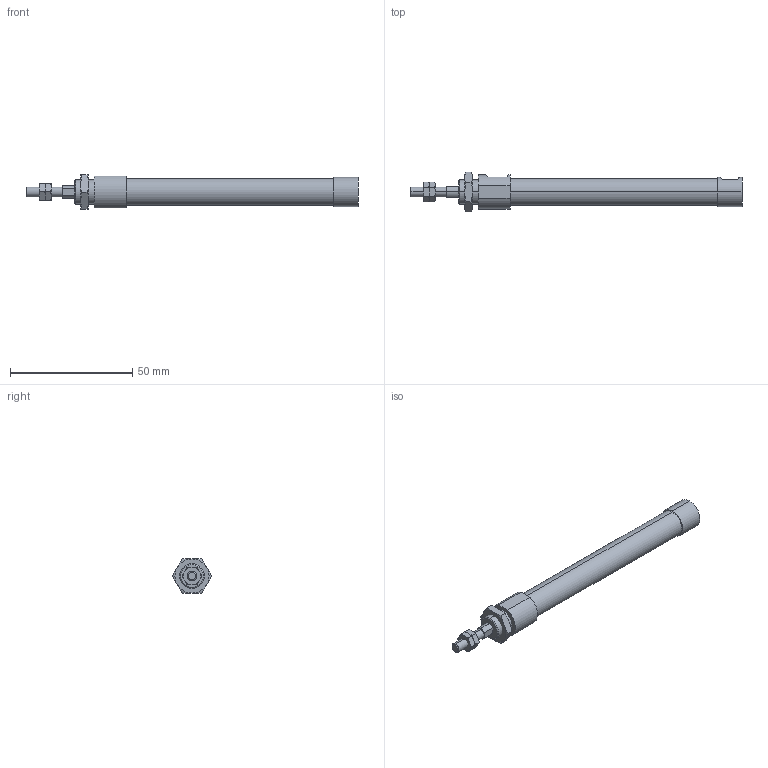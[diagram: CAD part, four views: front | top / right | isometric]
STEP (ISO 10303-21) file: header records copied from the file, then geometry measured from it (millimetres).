
FILE_DESCRIPTION (( 'STEP AP203' ), '1' );
FILE_NAME ('ZGU2-10-60-N.STEP', '2016-03-31T00:55:33', ( '' ), ( '' ), 'SwSTEP 2.0', 'SolidWorks 2014', '' );
FILE_SCHEMA (( 'CONFIG_CONTROL_DESIGN' ));
Length unit declared in the file: millimetre
Products named in the file (4): ZGU2-10-60-N; ZGU2-10-60
Assembly tree (4 placements, depth 2):
  ZGU2-10-60-N
    ZGU2-10-60
    (unnamed)  x2
    (unnamed)
Bounding box: 136 x 16.17 x 14 mm (x, y, z)
Volume: 12255.5 mm3; surface area: 5659.5 mm2
Topology: 4 solids, 4 shells, 108 faces, 235 edges, 140 vertices
Faces by surface type: plane 41, torus 36, cylinder 23, cone 8
Entity records: 3047 total; most frequent: CARTESIAN_POINT 792, DIRECTION 387, ORIENTED_EDGE 366, EDGE_CURVE 183, AXIS2_PLACEMENT_3D 163, VERTEX_POINT 112, EDGE_LOOP 99, FACE_OUTER_BOUND 86
